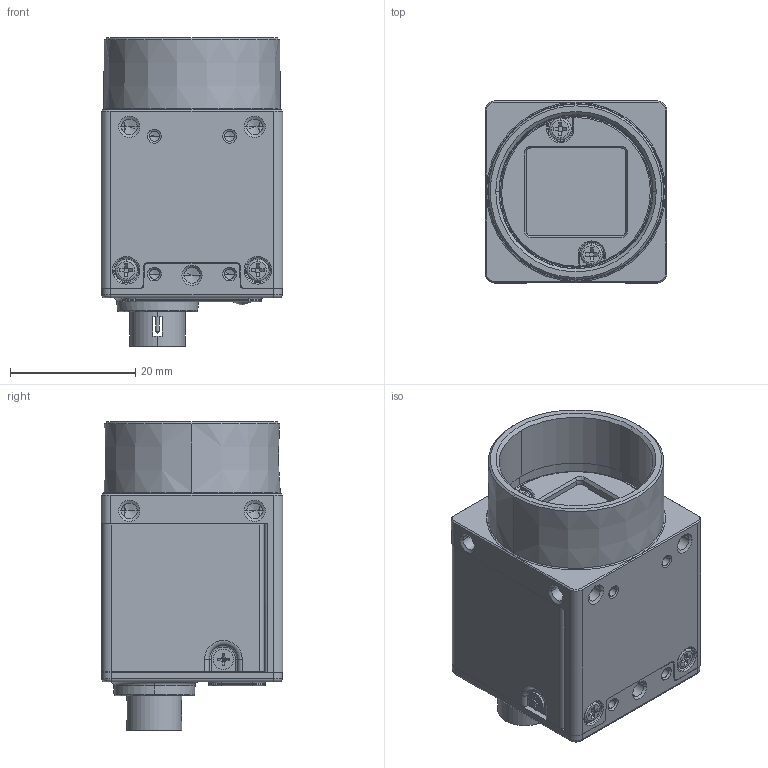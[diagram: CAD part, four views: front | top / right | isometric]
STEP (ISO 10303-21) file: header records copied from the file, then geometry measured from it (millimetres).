
FILE_DESCRIPTION((''),'2;1');
FILE_NAME('DH9-RDI000514-6001_AF9_1','2025-03-18T14:16:32',('401332'),(''),'CREO PARAMETRIC BY PTC INC, 2020184','CREO PARAMETRIC BY PTC INC, 2020184','');
FILE_SCHEMA(('CONFIG_CONTROL_DESIGN','SHAPE_APPEARANCE_LAYERS_GROUPS'));
Products named in the file (1): DH9-RDI000514-6001_AF9_1
Bounding box: 29 x 29 x 49.2 mm (x, y, z)
Volume: 10097.7 mm3; surface area: 14785.8 mm2
Topology: 1 solids, 19 shells, 2346 faces, 6266 edges, 3902 vertices
Faces by surface type: plane 994, cylinder 783, cone 230, bspline 184, torus 90, extrusion 40, sphere 25
Entity records: 104194 total; most frequent: CARTESIAN_POINT 27801, ORIENTED_EDGE 12398, DIRECTION 11522, PRESENTATION_STYLE_ASSIGNMENT 6222, STYLED_ITEM 6200, CURVE_STYLE 6199, EDGE_CURVE 6199, AXIS2_PLACEMENT_3D 3994
